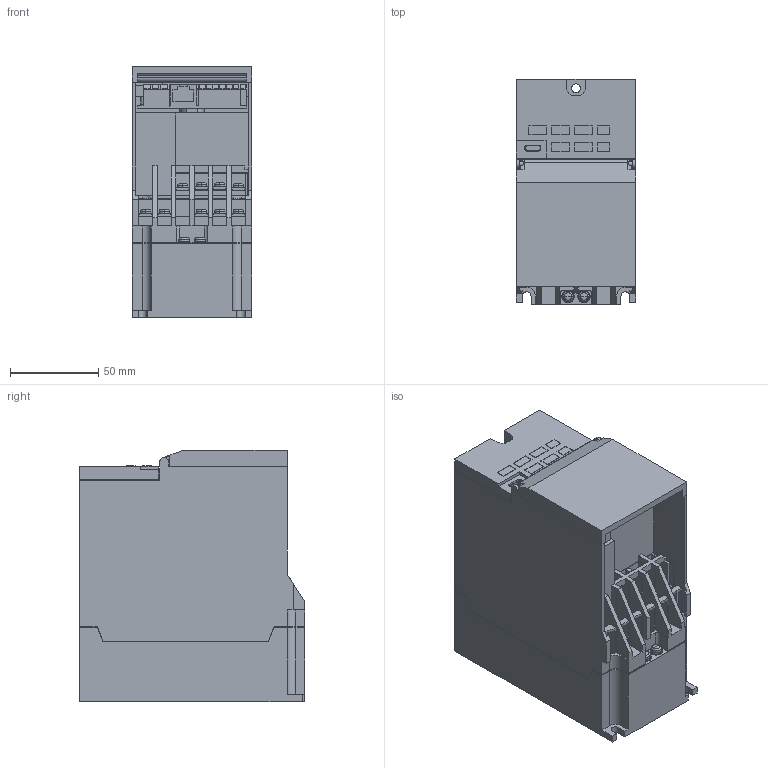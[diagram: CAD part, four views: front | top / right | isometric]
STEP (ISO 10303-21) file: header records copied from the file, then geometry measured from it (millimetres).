
FILE_DESCRIPTION((''),'2;1');
FILE_NAME('3D-INV-53_03_ASM','2024-11-27T16:32:08',('CT89920'),(''),'CREO PARAMETRIC BY PTC INC, 2022281','CREO PARAMETRIC BY PTC INC, 2022281','');
FILE_SCHEMA(('CONFIG_CONTROL_DESIGN','SHAPE_APPEARANCE_LAYERS_GROUPS'));
Length unit declared in the file: millimetre
Products named in the file (7): 3D-BASE-53_03E; 3D-TE_SHORT-51_01; 3D-TE_NEJI-M3_5X8-ZA7; 3D-TE-NEJI-53_01_ASM; 3D-SW-PW-P-M3_5X10; 3D-S_COV-D80-0_75; 3D-INV-53_03_ASM
Assembly tree (15 placements, depth 3):
  3D-INV-53_03_ASM
    3D-BASE-53_03E
    3D-TE-NEJI-53_01_ASM
      3D-TE_SHORT-51_01
      3D-TE_NEJI-M3_5X8-ZA7  x9
    3D-SW-PW-P-M3_5X10  x2
    3D-S_COV-D80-0_75
Bounding box: 68 x 128 x 142.5 mm (x, y, z)
Volume: 506434.7 mm3; surface area: 169866.6 mm2
Topology: 14 solids, 14 shells, 873 faces, 2362 edges, 1535 vertices
Faces by surface type: plane 712, cylinder 131, torus 22, cone 4, sphere 4
Entity records: 28880 total; most frequent: CARTESIAN_POINT 4253, ORIENTED_EDGE 4208, DIRECTION 3870, EDGE_CURVE 2104, VECTOR 1892, LINE 1892, VERTEX_POINT 1372, AXIS2_PLACEMENT_3D 989
